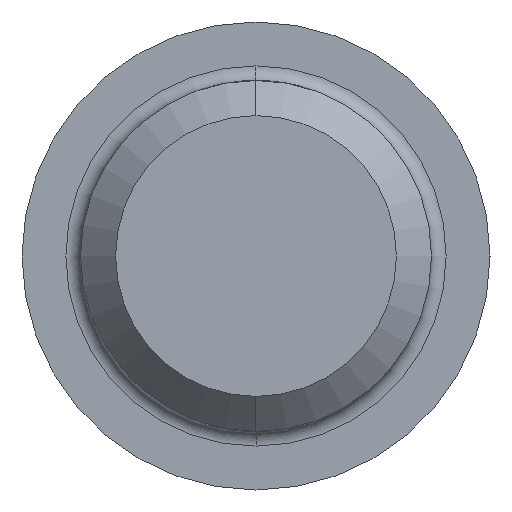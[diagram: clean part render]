
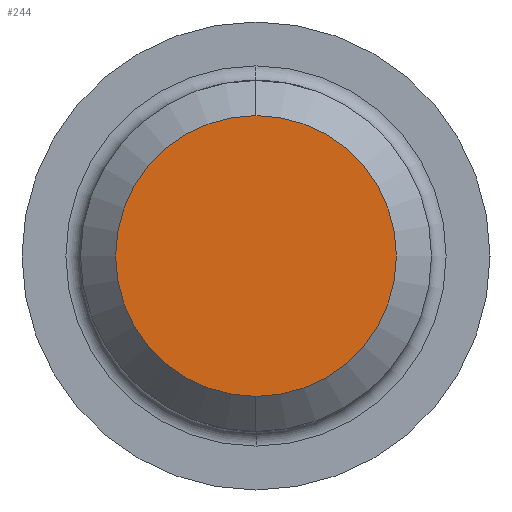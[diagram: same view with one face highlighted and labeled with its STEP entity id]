
A CAD part, left-side view. The second image highlights one B-rep face of the part: STEP entity #244.
In plain terms, the highlighted planar face has unit normal (-1, 0, 0).
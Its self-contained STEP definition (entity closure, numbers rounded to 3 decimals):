
#24 = VERTEX_POINT ( 'NONE', #78 ) ;
#30 = EDGE_CURVE ( 'NONE', #45, #24, #161, .T. ) ;
#45 = VERTEX_POINT ( 'NONE', #330 ) ;
#63 = AXIS2_PLACEMENT_3D ( 'NONE', #116, #115, #114 ) ;
#78 = CARTESIAN_POINT ( 'NONE',  ( -22., 0., -4.8 ) ) ;
#114 = DIRECTION ( 'NONE',  ( 0., 0., 1. ) ) ;
#115 = DIRECTION ( 'NONE',  ( -1., 0., 0. ) ) ;
#116 = CARTESIAN_POINT ( 'NONE',  ( -22., 0., 0. ) ) ;
#161 = CIRCLE ( 'NONE', #63, 4.8 ) ;
#241 = ORIENTED_EDGE ( 'NONE', *, *, #30, .T. ) ;
#244 = ADVANCED_FACE ( 'NONE', ( #490 ), #477, .F. ) ;
#254 = EDGE_CURVE ( 'NONE', #24, #45, #420, .T. ) ;
#260 = ORIENTED_EDGE ( 'NONE', *, *, #254, .T. ) ;
#262 = EDGE_LOOP ( 'NONE', ( #260, #241 ) ) ;
#330 = CARTESIAN_POINT ( 'NONE',  ( -22., 0., 4.8 ) ) ;
#417 = DIRECTION ( 'NONE',  ( 0., 0., 1. ) ) ;
#418 = DIRECTION ( 'NONE',  ( -1., 0., 0. ) ) ;
#419 = AXIS2_PLACEMENT_3D ( 'NONE', #427, #418, #417 ) ;
#420 = CIRCLE ( 'NONE', #419, 4.8 ) ;
#427 = CARTESIAN_POINT ( 'NONE',  ( -22., 0., 0. ) ) ;
#465 = DIRECTION ( 'NONE',  ( 0., 0., -1. ) ) ;
#466 = DIRECTION ( 'NONE',  ( 1., 0., 0. ) ) ;
#473 = CARTESIAN_POINT ( 'NONE',  ( -22., 4.8, 0. ) ) ;
#475 = AXIS2_PLACEMENT_3D ( 'NONE', #473, #466, #465 ) ;
#477 = PLANE ( 'NONE',  #475 ) ;
#490 = FACE_OUTER_BOUND ( 'NONE', #262, .T. ) ;
